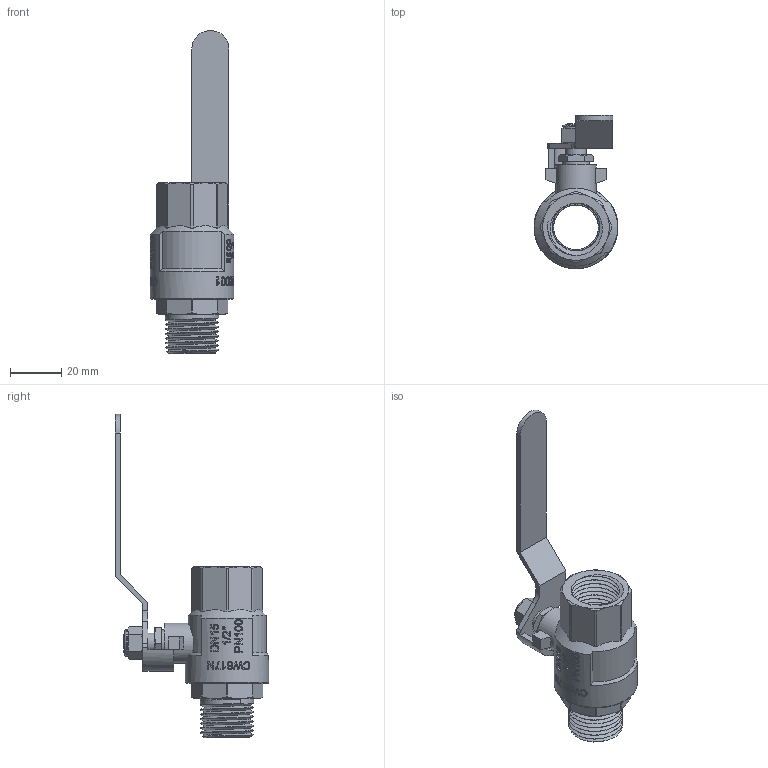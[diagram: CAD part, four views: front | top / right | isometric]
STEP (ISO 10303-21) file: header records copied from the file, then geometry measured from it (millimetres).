
FILE_DESCRIPTION(/* description */ (''),/* implementation_level */ '2;1');
FILE_NAME(/* name */ 'F:\Артём\00000\Работа удаленка\0\B\VT.315.N.04.stp',/* time_stamp */ '2021-02-03T15:59:27+03:00',/* author */ ('almis'),/* organization */ (''),/* preprocessor_version */ 'ST-DEVELOPER v18',/* originating_system */ 'Autodesk Inventor 2020',/* authorisation */ '');
FILE_SCHEMA (('AUTOMOTIVE_DESIGN { 1 0 10303 214 3 1 1 }'));
Length unit declared in the file: millimetre
Products named in the file (1): VT.314_ВВ_1%2
Bounding box: 32.7 x 59.89 x 126.24 mm (x, y, z)
Volume: 29322.6 mm3; surface area: 17765.2 mm2
Topology: 1 solids, 1 shells, 597 faces, 1594 edges, 1057 vertices
Faces by surface type: bspline 229, plane 214, cylinder 121, cone 29, torus 4
Full cylindrical faces by diameter (mm): 7.923 x1, 8 x1, 10.392 x1, 10.535 x1, 15.676 x1, 17.5 x8, 18.6 x9, 21 x7, 22.2 x8, 32.5 x1
Entity records: 29034 total; most frequent: CARTESIAN_POINT 15417, ORIENTED_EDGE 3188, DIRECTION 2004, EDGE_CURVE 1594, VERTEX_POINT 1057, LINE 710, VECTOR 710, EDGE_LOOP 659
